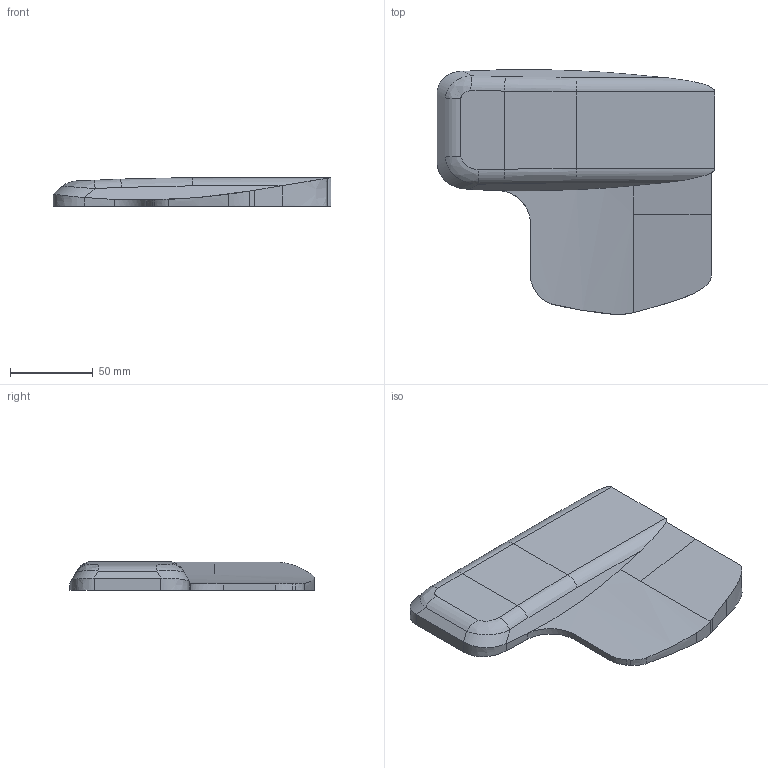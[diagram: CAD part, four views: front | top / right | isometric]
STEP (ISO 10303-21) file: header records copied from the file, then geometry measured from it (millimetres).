
FILE_DESCRIPTION(('CATIA V5 STEP Exchange'),'2;1');
FILE_NAME('D:\Gao Bingchuan\02-重卡\2.0平台\03-座盆\05-新开发座盆 降低H点_20241122\CNC 发泡\SHT0017073_CNC 20镶块.stp','2025-06-12T07:53:50+00:00',('none'),('none'),'CATIA Version 5 Release 20 SP 7 (IN-10)','CATIA V5 STEP AP203 Edition 2','none');
FILE_SCHEMA(('AP203_CONFIGURATION_CONTROLLED_3D_DESIGN_OF_MECHANICAL_PARTS_AND_ASSEMBLIES_MIM_LF { 1 0 10303 403 2 1 2}'));
Length unit declared in the file: millimetre
Products named in the file (1): SHT0017073_ALL NEW-002
Bounding box: 167.89 x 147.92 x 17.45 mm (x, y, z)
Volume: 250082.3 mm3; surface area: 45506.3 mm2
Topology: 1 solids, 1 shells, 42 faces, 103 edges, 63 vertices
Faces by surface type: plane 15, extrusion 13, cylinder 10, bspline 4
Entity records: 2828 total; most frequent: CARTESIAN_POINT 1625, ORIENTED_EDGE 206, DIRECTION 122, EDGE_CURVE 103, VECTOR 68, VERTEX_POINT 63, LINE 55, B_SPLINE_CURVE_WITH_KNOTS 55
